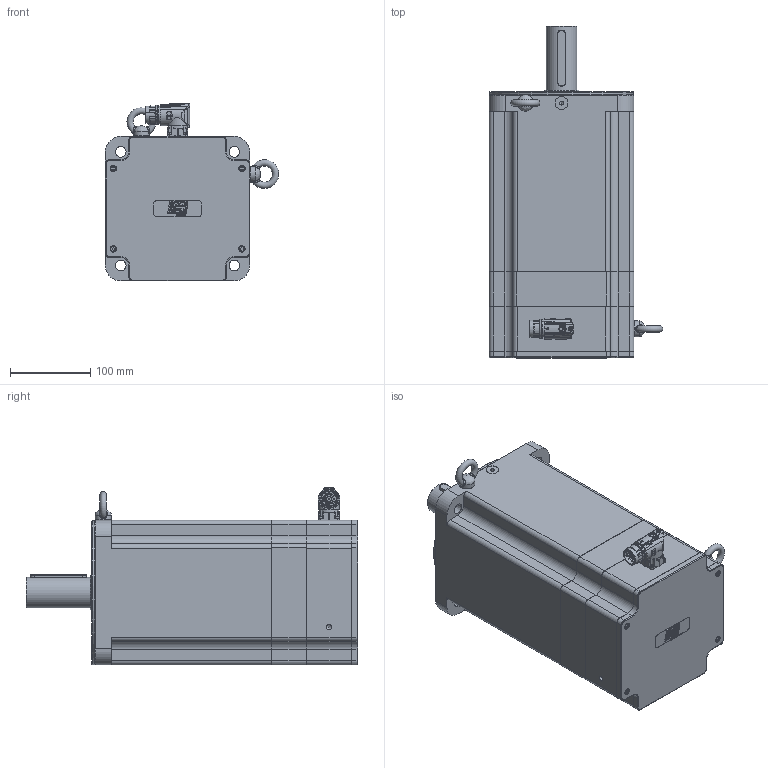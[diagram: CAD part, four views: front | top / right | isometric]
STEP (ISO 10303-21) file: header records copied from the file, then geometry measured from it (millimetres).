
FILE_DESCRIPTION(/* description */ ('Unknown'),/* implementation_level */ '2;1');
FILE_NAME(/* name */ 'TC4-180.7E.X X.X.3.XX.1.X.C21 Q0B807',/* time_stamp */ '2026-03-10T11:04:36+01:00',/* author */ ('Unknown'),/* organization */ ('Unknown'),/* preprocessor_version */ 'ST-DEVELOPER v19.4',/* originating_system */ 'Solid Edge',/* authorisation */ 'Unknown');
FILE_SCHEMA (('AUTOMOTIVE_DESIGN {1 0 10303 214 3 1 1}'));
Products named in the file (15): Q0B807 7E FRENO VUOTO; 005256003057; 003103040231; 003155002233; Coperchio campana TC4-180; 003003199972; 005113001040; 005119001104; 005911000185; 005911000479; Corpo TC4-180 7E; 005321000010; 005911000180; 003251040631; 007117000456
Assembly tree (28 placements, depth 2):
  Q0B807 7E FRENO VUOTO
    005256003057
    003103040231
    003155002233
    Coperchio campana TC4-180
    003003199972
    005113001040
    005119001104
    005911000185  x4
    005911000479  x8
    Corpo TC4-180 7E
    005321000010  x2
    005911000180  x4
    003251040631
    007117000456
Bounding box: 215.95 x 413 x 221.5 mm (x, y, z)
Volume: 4033340.4 mm3; surface area: 904442.6 mm2
Topology: 29 solids, 55 shells, 2097 faces, 5604 edges, 3651 vertices
Faces by surface type: plane 897, cylinder 561, bspline 247, cone 227, torus 129, sphere 36
Full cylindrical faces by diameter (mm): 1 x4, 1.4 x4, 2 x4, 2.013 x8, 2.5 x4, 2.8 x4, 3 x8, 3.242 x12, 4 x5, 4.134 x16, 4.2 x8, 4.5 x9, 4.7 x4, 4.917 x8, 5 x8, 5.5 x9, 5.8 x1, 5.9 x1, 6.647 x14, 6.8 x1, 7 x6, 8 x8, 9 x4, 10 x3, 10.106 x2, 14 x4, 16 x1, 17.4 x1, 19.9 x1, 20 x3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
Entity records: 74970 total; most frequent: CARTESIAN_POINT 19501, ORIENTED_EDGE 8960, DIRECTION 8942, EDGE_CURVE 4688, AXIS2_PLACEMENT_3D 3385, VERTEX_POINT 3276, FACE_BOUND 2471, EDGE_LOOP 2441
